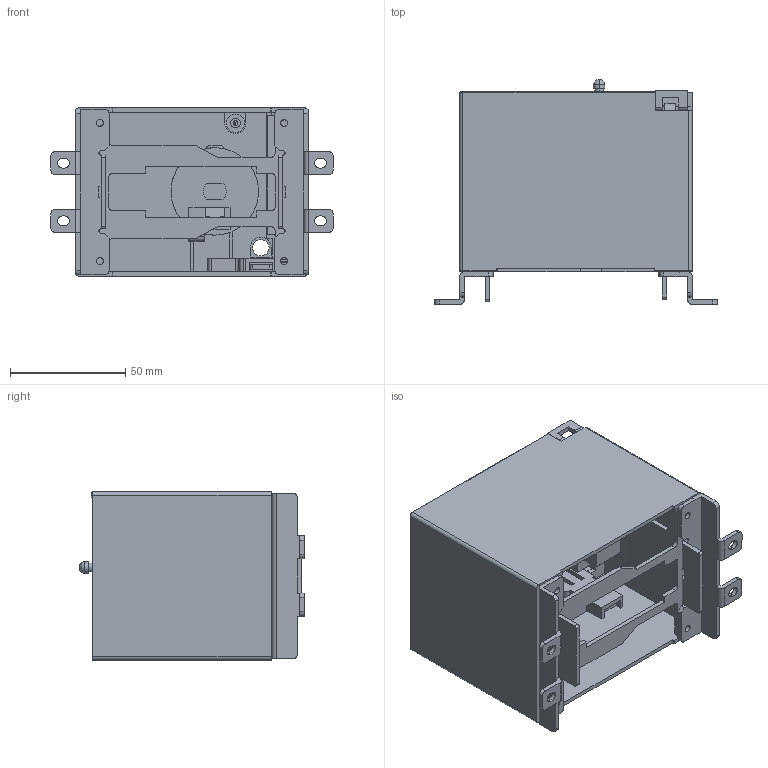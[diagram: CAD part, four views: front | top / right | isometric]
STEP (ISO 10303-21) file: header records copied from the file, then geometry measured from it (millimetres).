
FILE_DESCRIPTION (( 'STEP AP203' ), '1' );
FILE_NAME ('ﾐﾂTGM1N-125ZPT.STEP', '2026-06-11T02:36:20', ( 'Windows ﾓﾃｻｧ' ), ( 'Microsoft' ), 'SwSTEP 2.0', 'SolidWorks 2022', '' );
FILE_SCHEMA (( 'CONFIG_CONTROL_DESIGN' ));
Length unit declared in the file: millimetre
Products named in the file (12): 迕諶偌聽; 忒雄梟; 萇紱傷赽; TGM1N-63軞盓殤; 芵隴誘欶63萇儂; 萇紱TGM1N-125ZPT; 萇儂63褲极; 伎攫; ÐÂTGM1N-125ZPT; TGM1N-63褐殤ヶ綴眈肮; 峚雄賑輸; 錨璃1
Assembly tree (11 placements, depth 3):
  ÐÂTGM1N-125ZPT
    萇紱TGM1N-125ZPT
      TGM1N-63褐殤ヶ綴眈肮
      萇儂63褲极
      錨璃1
      伎攫
      迕諶偌聽
      TGM1N-63軞盓殤
      芵隴誘欶63萇儂
      忒雄梟
    峚雄賑輸
    萇紱傷赽
Bounding box: 122.6 x 97.5 x 73 mm (x, y, z)
Volume: 94673.8 mm3; surface area: 107271.5 mm2
Topology: 10 solids, 10 shells, 1473 faces, 4200 edges, 2787 vertices
Faces by surface type: plane 950, bspline 268, cylinder 229, torus 18, cone 8
Entity records: 60381 total; most frequent: CARTESIAN_POINT 22076, ORIENTED_EDGE 8396, DIRECTION 6559, EDGE_CURVE 4198, LINE 3031, VECTOR 3031, VERTEX_POINT 2787, AXIS2_PLACEMENT_3D 1764
